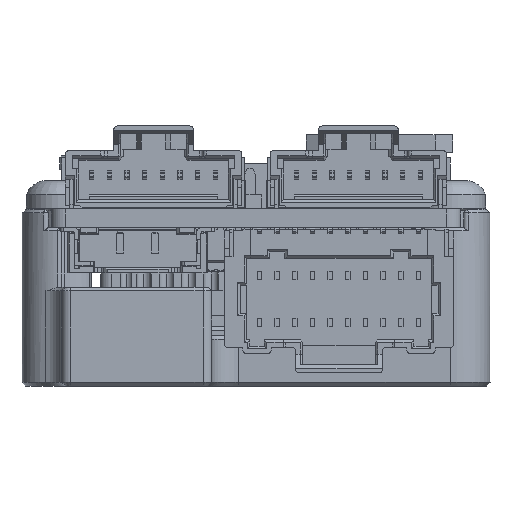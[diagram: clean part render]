
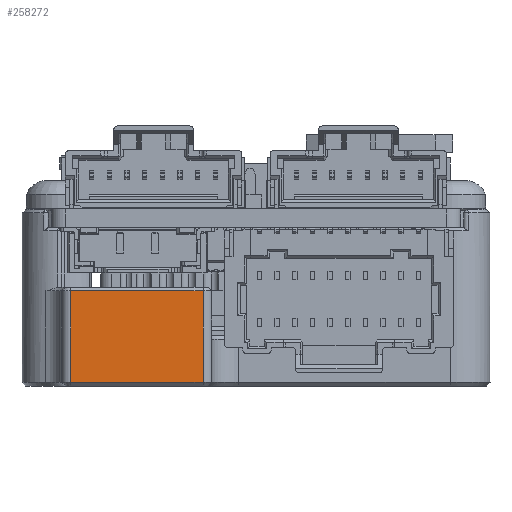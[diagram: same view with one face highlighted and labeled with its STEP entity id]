
A CAD part, left-side view. The second image highlights one B-rep face of the part: STEP entity #258272.
In plain terms, the highlighted planar face has unit normal (-1, 0, 0).
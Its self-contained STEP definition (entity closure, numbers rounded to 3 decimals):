
#4145 = VECTOR ( 'NONE', #70363, 1000. ) ;
#24659 = FACE_OUTER_BOUND ( 'NONE', #69625, .T. ) ;
#41657 = VERTEX_POINT ( 'NONE', #172172 ) ;
#48897 = CARTESIAN_POINT ( 'NONE',  ( -3.15, 11., -4.025 ) ) ;
#50475 = EDGE_CURVE ( 'NONE', #84583, #114184, #136037, .T. ) ;
#54183 = DIRECTION ( 'NONE',  ( 0., 1., 0. ) ) ;
#66254 = DIRECTION ( 'NONE',  ( 1., 0., 0. ) ) ;
#69625 = EDGE_LOOP ( 'NONE', ( #277221, #260425, #166417, #235808 ) ) ;
#70363 = DIRECTION ( 'NONE',  ( 0., 0., 1. ) ) ;
#84583 = VERTEX_POINT ( 'NONE', #160306 ) ;
#89393 = DIRECTION ( 'NONE',  ( 0., -1., 0. ) ) ;
#108098 = LINE ( 'NONE', #109522, #196309 ) ;
#109522 = CARTESIAN_POINT ( 'NONE',  ( -3.15, 11., -9.825 ) ) ;
#110589 = LINE ( 'NONE', #153551, #4145 ) ;
#114184 = VERTEX_POINT ( 'NONE', #190526 ) ;
#115912 = CARTESIAN_POINT ( 'NONE',  ( -3.15, 10.5, -4.625 ) ) ;
#136037 = LINE ( 'NONE', #115912, #201173 ) ;
#145578 = AXIS2_PLACEMENT_3D ( 'NONE', #48897, #66254, #264057 ) ;
#153551 = CARTESIAN_POINT ( 'NONE',  ( -3.15, 3., -4.025 ) ) ;
#160306 = CARTESIAN_POINT ( 'NONE',  ( -3.15, 3., -4.625 ) ) ;
#165007 = CARTESIAN_POINT ( 'NONE',  ( -3.15, 3., -9.825 ) ) ;
#166417 = ORIENTED_EDGE ( 'NONE', *, *, #186883, .T. ) ;
#172172 = CARTESIAN_POINT ( 'NONE',  ( -3.15, 10.5, -9.825 ) ) ;
#176555 = PLANE ( 'NONE',  #145578 ) ;
#186883 = EDGE_CURVE ( 'NONE', #114184, #41657, #221070, .T. ) ;
#190526 = CARTESIAN_POINT ( 'NONE',  ( -3.15, 10.5, -4.625 ) ) ;
#192940 = VERTEX_POINT ( 'NONE', #165007 ) ;
#196309 = VECTOR ( 'NONE', #89393, 1000. ) ;
#201173 = VECTOR ( 'NONE', #54183, 1000. ) ;
#202798 = EDGE_CURVE ( 'NONE', #41657, #192940, #108098, .T. ) ;
#221070 = LINE ( 'NONE', #262727, #263252 ) ;
#235808 = ORIENTED_EDGE ( 'NONE', *, *, #202798, .T. ) ;
#258272 = ADVANCED_FACE ( 'NONE', ( #24659 ), #176555, .F. ) ;
#259933 = DIRECTION ( 'NONE',  ( 0., 0., -1. ) ) ;
#260425 = ORIENTED_EDGE ( 'NONE', *, *, #50475, .T. ) ;
#262727 = CARTESIAN_POINT ( 'NONE',  ( -3.15, 10.5, -4.025 ) ) ;
#263252 = VECTOR ( 'NONE', #259933, 1000. ) ;
#264057 = DIRECTION ( 'NONE',  ( 0., 1., 0. ) ) ;
#277221 = ORIENTED_EDGE ( 'NONE', *, *, #281041, .T. ) ;
#281041 = EDGE_CURVE ( 'NONE', #192940, #84583, #110589, .T. ) ;
